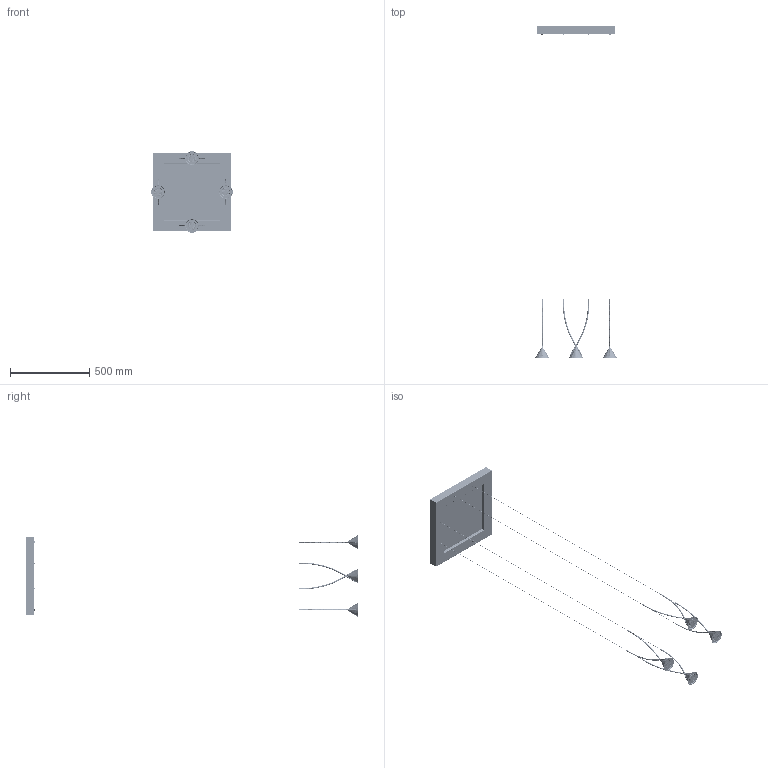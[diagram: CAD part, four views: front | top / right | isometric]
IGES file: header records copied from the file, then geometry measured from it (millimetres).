
Start section: SolidWorks IGES file using analytic representation for surfaces
Global section: file name: \\STORAGE\Tecnico Condiviso\1 FASCICOLI TECNICI\AXO DESIGN\AXO053-JEWEL\CE\SPJEWEL4XXXXLED\SPJEWEL4XXXXLED-PER 3D.IGS; native system: SolidWorks 2018; preprocessor: SolidWorks 2018; author: tecnico3; date: 180809.092840; units: millimetre
Bounding box: 515.79 x 2092.67 x 515.79 mm (x, y, z)
Surface area: 1667838.2 mm2 (no closed solid volume)
Topology: 0 solids, 0 shells, 9766 faces, 84736 edges, 84326 vertices
Faces by surface type: bspline 5430, revolution 4336
